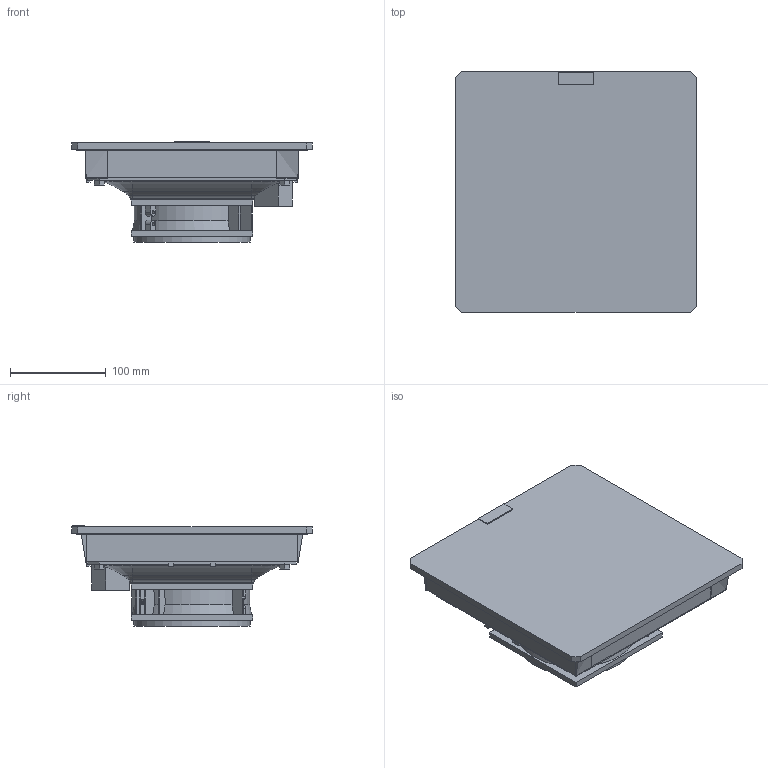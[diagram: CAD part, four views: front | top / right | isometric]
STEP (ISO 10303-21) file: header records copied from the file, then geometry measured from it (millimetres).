
FILE_DESCRIPTION( ( 'STEP AP214' ), '1' );
FILE_NAME( 'p:/temp/worker_128/temp/exporttempdir_1780_588_oP4TJ/format_0/EF250-115R5(0).stp', '2021-03-15T16:33:47', ( 'License CC BY-ND 4.0' ), ( 'CADENAS' ), ' ', 'PARTsolutions', ' ' );
FILE_SCHEMA( ( 'AUTOMOTIVE_DESIGN { 1 0 10303 214 1 1 1 1 }' ) );
Length unit declared in the file: millimetre
Products named in the file (1): _EF250-115R5(0)
Bounding box: 252 x 252 x 104.7 mm (x, y, z)
Volume: 1443845.2 mm3; surface area: 362679.8 mm2
Topology: 1 solids, 2 shells, 752 faces, 2021 edges, 1315 vertices
Faces by surface type: plane 481, cylinder 229, cone 17, bspline 16, torus 9
Full cylindrical faces by diameter (mm): 2.4 x1, 3.5 x2, 121.5 x1
Entity records: 29859 total; most frequent: CARTESIAN_POINT 4546, ORIENTED_EDGE 4028, DIRECTION 3965, EDGE_CURVE 2014, LINE 1399, VECTOR 1399, VERTEX_POINT 1312, AXIS2_PLACEMENT_3D 1283
